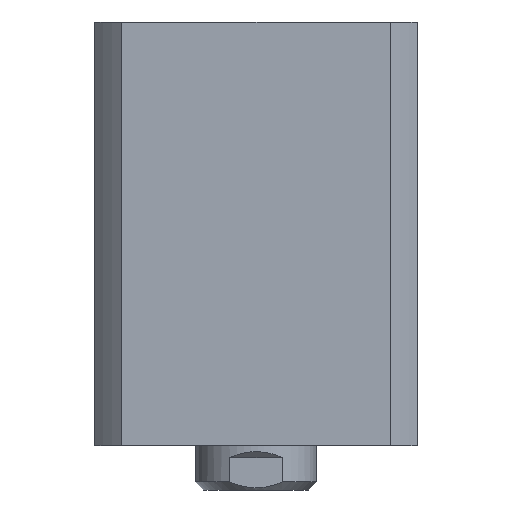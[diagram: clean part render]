
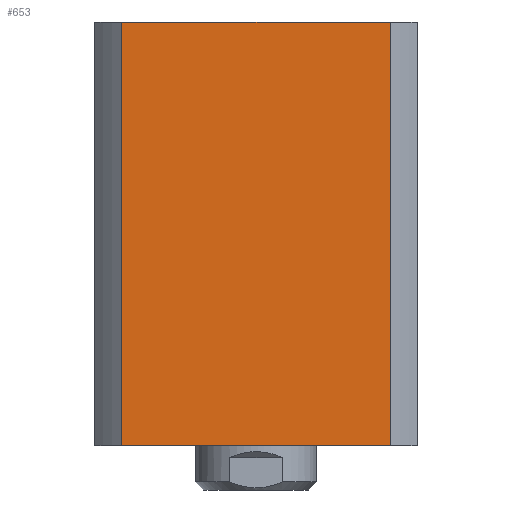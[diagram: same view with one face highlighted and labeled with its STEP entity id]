
A CAD part, left-side view. The second image highlights one B-rep face of the part: STEP entity #653.
In plain terms, the highlighted planar face has unit normal (-1, 0, 0).
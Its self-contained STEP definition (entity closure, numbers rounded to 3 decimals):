
#19 = CARTESIAN_POINT ( 'NONE',  ( -40., -33.226, 52.5 ) ) ;
#148 = VERTEX_POINT ( 'NONE', #2315 ) ;
#653 = ADVANCED_FACE ( 'NONE', ( #8805 ), #10176, .F. ) ;
#783 = VECTOR ( 'NONE', #10577, 1000. ) ;
#1066 = DIRECTION ( 'NONE',  ( 0., 0., -1. ) ) ;
#1469 = LINE ( 'NONE', #10216, #783 ) ;
#1630 = EDGE_CURVE ( 'NONE', #1744, #7256, #3725, .T. ) ;
#1744 = VERTEX_POINT ( 'NONE', #2384 ) ;
#2315 = CARTESIAN_POINT ( 'NONE',  ( -40., 33.226, 52.5 ) ) ;
#2384 = CARTESIAN_POINT ( 'NONE',  ( -40., -33.226, 52.5 ) ) ;
#2689 = VERTEX_POINT ( 'NONE', #9068 ) ;
#2808 = DIRECTION ( 'NONE',  ( 0., -1., 0. ) ) ;
#3725 = LINE ( 'NONE', #19, #12850 ) ;
#3740 = DIRECTION ( 'NONE',  ( 1., 0., 0. ) ) ;
#4176 = CARTESIAN_POINT ( 'NONE',  ( -40., -33.226, -52.5 ) ) ;
#4274 = VECTOR ( 'NONE', #2808, 1000. ) ;
#4617 = LINE ( 'NONE', #9129, #12747 ) ;
#5582 = CARTESIAN_POINT ( 'NONE',  ( -40., 33.226, 52.5 ) ) ;
#6040 = EDGE_CURVE ( 'NONE', #2689, #7256, #4617, .T. ) ;
#6440 = AXIS2_PLACEMENT_3D ( 'NONE', #5582, #3740, #11304 ) ;
#6560 = EDGE_CURVE ( 'NONE', #148, #1744, #9203, .T. ) ;
#7256 = VERTEX_POINT ( 'NONE', #4176 ) ;
#7978 = DIRECTION ( 'NONE',  ( 0., -1., 0. ) ) ;
#8516 = ORIENTED_EDGE ( 'NONE', *, *, #1630, .F. ) ;
#8805 = FACE_OUTER_BOUND ( 'NONE', #13208, .T. ) ;
#9068 = CARTESIAN_POINT ( 'NONE',  ( -40., 33.226, -52.5 ) ) ;
#9129 = CARTESIAN_POINT ( 'NONE',  ( -40., 33.226, -52.5 ) ) ;
#9166 = ORIENTED_EDGE ( 'NONE', *, *, #13530, .T. ) ;
#9203 = LINE ( 'NONE', #10494, #4274 ) ;
#10176 = PLANE ( 'NONE',  #6440 ) ;
#10216 = CARTESIAN_POINT ( 'NONE',  ( -40., 33.226, 52.5 ) ) ;
#10494 = CARTESIAN_POINT ( 'NONE',  ( -40., 33.226, 52.5 ) ) ;
#10577 = DIRECTION ( 'NONE',  ( 0., 0., -1. ) ) ;
#11304 = DIRECTION ( 'NONE',  ( 0., 1., 0. ) ) ;
#12326 = ORIENTED_EDGE ( 'NONE', *, *, #6560, .F. ) ;
#12747 = VECTOR ( 'NONE', #7978, 1000. ) ;
#12850 = VECTOR ( 'NONE', #1066, 1000. ) ;
#13208 = EDGE_LOOP ( 'NONE', ( #13936, #8516, #12326, #9166 ) ) ;
#13530 = EDGE_CURVE ( 'NONE', #148, #2689, #1469, .T. ) ;
#13936 = ORIENTED_EDGE ( 'NONE', *, *, #6040, .T. ) ;
